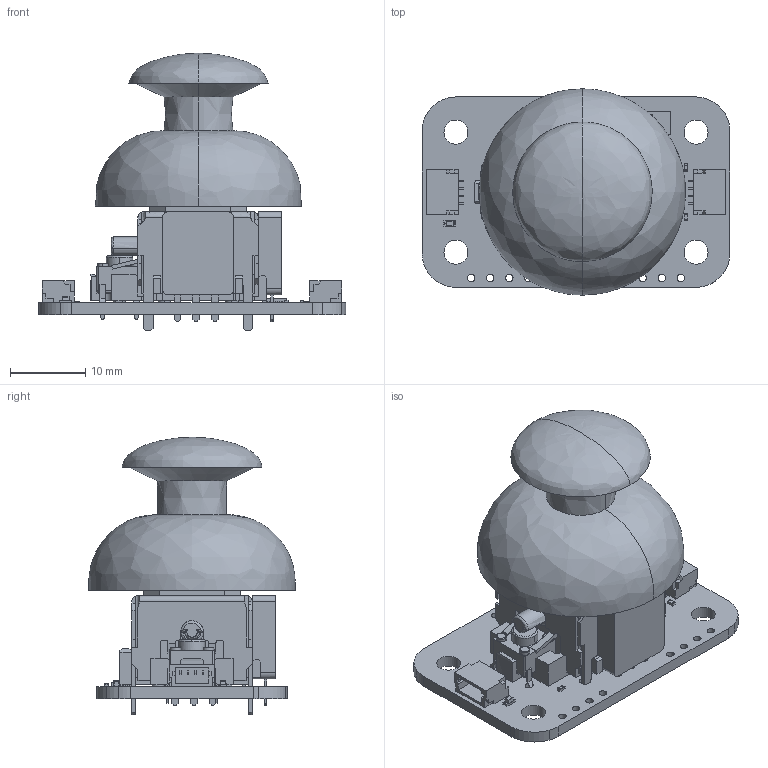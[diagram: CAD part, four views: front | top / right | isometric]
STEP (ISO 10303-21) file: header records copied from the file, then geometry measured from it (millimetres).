
FILE_DESCRIPTION(('Open CASCADE Model'),'2;1');
FILE_NAME('Open CASCADE Shape Model','2025-12-05T14:14:25',('Author'),( 'Open CASCADE'),'Open CASCADE STEP processor 7.5','Open CASCADE 7.5' ,'Unknown');
FILE_SCHEMA(('AUTOMOTIVE_DESIGN { 1 0 10303 214 1 1 1 1 }'));
Length unit declared in the file: millimetre
Products named in the file (29): PCB; Board; Open CASCADE STEP translator 7.5 2.1.1; JOYSTICK1; Joystick color test 02; Open CASCADE STEP translator 7.5 2.2.1.1; Open CASCADE STEP translator 7.5 2.2.1.2; R1; RES-0402; D1; HSMx-190; J2; SM04B-SRSS-TB_RGB12040119; J1; U1; 7639065408; Open CASCADE STEP translator 7.5 16.1; Body; Open CASCADE STEP translator 7.5 16.2.1; Pin Shape; Open CASCADE STEP translator 7.5 16.3.1; R9; R11; R8; R6; C3; CAP-0402; C4; CAP-0603
Assembly tree (52 placements, depth 5):
  PCB
    Board
      Open CASCADE STEP translator 7.5 2.1.1
    JOYSTICK1
      Joystick color test 02
        Open CASCADE STEP translator 7.5 2.2.1.1
        Open CASCADE STEP translator 7.5 2.2.1.2
    R1
      RES-0402
    D1
      HSMx-190
    J2
      SM04B-SRSS-TB_RGB12040119
    J1
      SM04B-SRSS-TB_RGB12040119
    U1
      7639065408
        Open CASCADE STEP translator 7.5 16.1
        Body
          Open CASCADE STEP translator 7.5 16.2.1
        Pin Shape  x20
          Open CASCADE STEP translator 7.5 16.3.1
    R9
      RES-0402
    R11
      RES-0402
    R8
      RES-0402
    R6
      RES-0402
    C3
      CAP-0402
    C4
      CAP-0603
Bounding box: 41 x 27.5 x 36.95 mm (x, y, z)
Volume: 7632.3 mm3; surface area: 7345 mm2
Topology: 33 solids, 58 shells, 1460 faces, 4006 edges, 2606 vertices
Faces by surface type: plane 1160, bspline 147, cylinder 129, sphere 20, torus 4
Full cylindrical faces by diameter (mm): 0.07 x1, 0.388 x1, 1 x22, 1.5 x4, 3.2 x4
Entity records: 33486 total; most frequent: CARTESIAN_POINT 11208, ORIENTED_EDGE 5062, DIRECTION 2881, EDGE_CURVE 2780, VERTEX_POINT 1852, B_SPLINE_CURVE_WITH_KNOTS 1599, AXIS2_PLACEMENT_3D 1104, FACE_BOUND 1052
